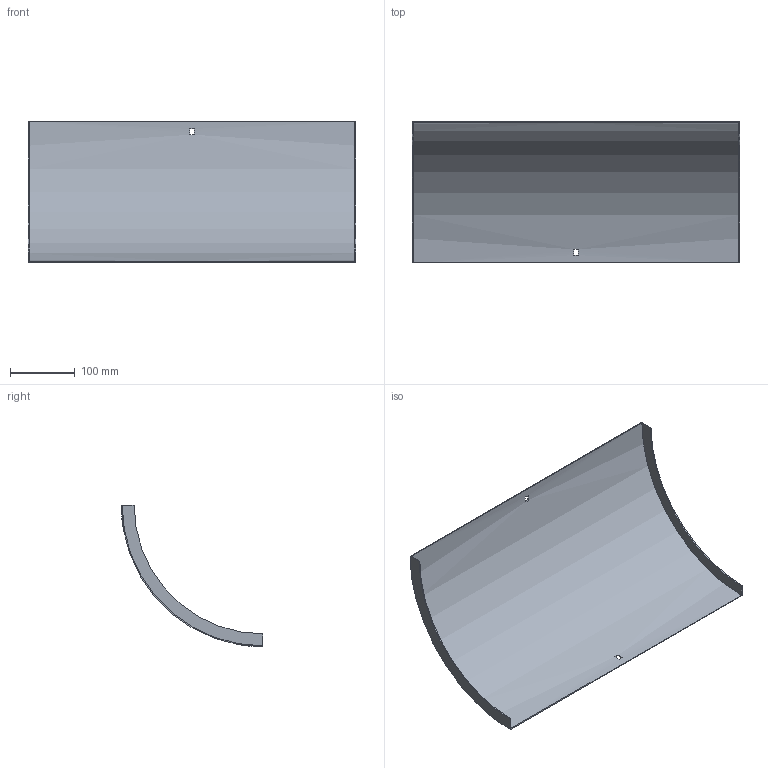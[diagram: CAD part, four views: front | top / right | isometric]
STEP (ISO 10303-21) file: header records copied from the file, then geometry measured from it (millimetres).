
FILE_DESCRIPTION (( 'STEP AP214' ), '1' );
FILE_NAME ('33N1J500.step', '2025-02-21T09:17:40', ( '' ), ( '' ), 'SwSTEP 2.0', 'SolidWorks 2023', '' );
FILE_SCHEMA (( 'AUTOMOTIVE_DESIGN' ));
Length unit declared in the file: millimetre
Products named in the file (1): 33N1J500
Bounding box: 507 x 219 x 219 mm (x, y, z)
Volume: 278698.5 mm3; surface area: 374264.5 mm2
Topology: 1 solids, 1 shells, 18 faces, 48 edges, 32 vertices
Faces by surface type: plane 14, cylinder 4
Entity records: 599 total; most frequent: DIRECTION 102, CARTESIAN_POINT 99, ORIENTED_EDGE 96, EDGE_CURVE 48, AXIS2_PLACEMENT_3D 35, LINE 32, VERTEX_POINT 32, VECTOR 32
